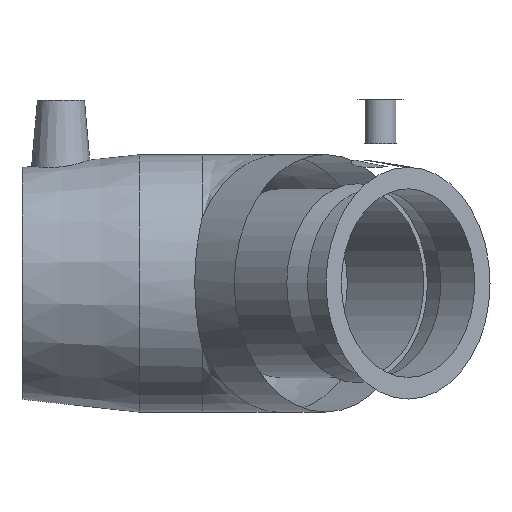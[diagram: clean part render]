
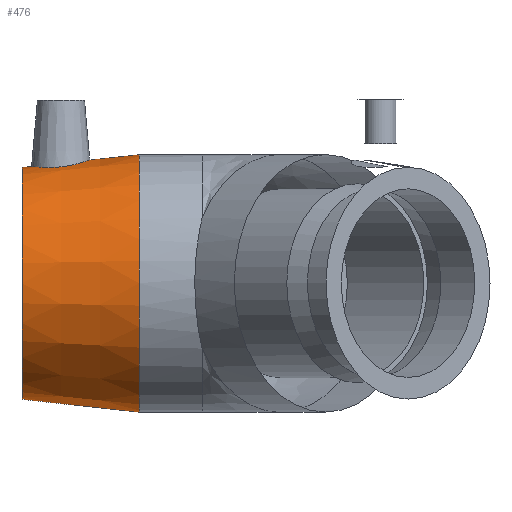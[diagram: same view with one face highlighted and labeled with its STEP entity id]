
A CAD part, top view. The second image highlights one B-rep face of the part: STEP entity #476.
In plain terms, the highlighted conical face has half-angle 6.28 degrees and reference radius 38.97 mm.
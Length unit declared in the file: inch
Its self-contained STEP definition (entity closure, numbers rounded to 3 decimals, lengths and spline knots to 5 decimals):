
#17=B_SPLINE_CURVE_WITH_KNOTS('',3,(#902,#903,#904,#905,#906,#907,#908,
#909,#910,#911),.UNSPECIFIED.,.F.,.F.,(4,2,2,2,4),(0.,0.34407,
0.68813,1.03429,1.38045),.UNSPECIFIED.);
#18=B_SPLINE_CURVE_WITH_KNOTS('',3,(#912,#913,#914,#915,#916,#917,#918,
#919,#920,#921,#922,#923,#924,#925,#926,#927,#928,#929,#930,#931,#932,#933,
#934,#935,#936,#937),.UNSPECIFIED.,.F.,.F.,(4,2,2,2,2,2,2,2,2,2,2,2,4),
(1.38045,1.7266,2.07276,2.41683,2.76089,
3.12626,3.49163,3.84978,4.20794,4.56609,
4.92425,5.28962,5.65499),.UNSPECIFIED.);
#24=CONICAL_SURFACE('',#569,1.53425,0.11);
#39=FACE_BOUND('',#153,.T.);
#55=LINE('',#968,#71);
#71=VECTOR('',#733,1.53425);
#111=FACE_OUTER_BOUND('',#152,.T.);
#152=EDGE_LOOP('',(#427,#428,#429,#430,#431,#432));
#153=EDGE_LOOP('',(#433,#434));
#187=CIRCLE('',#555,1.615);
#188=CIRCLE('',#556,1.615);
#195=CIRCLE('',#567,1.4535);
#196=CIRCLE('',#568,1.4535);
#231=VERTEX_POINT('',#900);
#232=VERTEX_POINT('',#901);
#233=VERTEX_POINT('',#940);
#234=VERTEX_POINT('',#942);
#241=VERTEX_POINT('',#963);
#242=VERTEX_POINT('',#964);
#290=EDGE_CURVE('',#231,#232,#17,.T.);
#291=EDGE_CURVE('',#232,#231,#18,.T.);
#294=EDGE_CURVE('',#233,#234,#187,.T.);
#295=EDGE_CURVE('',#234,#233,#188,.T.);
#304=EDGE_CURVE('',#241,#242,#195,.T.);
#305=EDGE_CURVE('',#242,#241,#196,.T.);
#306=EDGE_CURVE('',#233,#242,#55,.T.);
#427=ORIENTED_EDGE('',*,*,#295,.F.);
#428=ORIENTED_EDGE('',*,*,#294,.F.);
#429=ORIENTED_EDGE('',*,*,#306,.T.);
#430=ORIENTED_EDGE('',*,*,#305,.T.);
#431=ORIENTED_EDGE('',*,*,#304,.T.);
#432=ORIENTED_EDGE('',*,*,#306,.F.);
#433=ORIENTED_EDGE('',*,*,#290,.T.);
#434=ORIENTED_EDGE('',*,*,#291,.T.);
#476=ADVANCED_FACE('',(#111,#39),#24,.T.);
#555=AXIS2_PLACEMENT_3D('',#943,#701,#702);
#556=AXIS2_PLACEMENT_3D('',#944,#703,#704);
#567=AXIS2_PLACEMENT_3D('',#965,#727,#728);
#568=AXIS2_PLACEMENT_3D('',#966,#729,#730);
#569=AXIS2_PLACEMENT_3D('',#967,#731,#732);
#701=DIRECTION('center_axis',(1.,0.,0.));
#702=DIRECTION('ref_axis',(0.,0.,-1.));
#703=DIRECTION('center_axis',(1.,0.,0.));
#704=DIRECTION('ref_axis',(0.,0.,-1.));
#727=DIRECTION('center_axis',(1.,0.,0.));
#728=DIRECTION('ref_axis',(0.,0.,-1.));
#729=DIRECTION('center_axis',(1.,0.,0.));
#730=DIRECTION('ref_axis',(0.,0.,-1.));
#731=DIRECTION('center_axis',(1.,0.,0.));
#732=DIRECTION('ref_axis',(0.,1.,0.));
#733=DIRECTION('',(-0.994,0.109,0.));
#900=CARTESIAN_POINT('',(-2.36137,1.46,0.36852));
#901=CARTESIAN_POINT('',(-2.71618,1.46674,0.));
#902=CARTESIAN_POINT('Ctrl Pts',(-2.36137,1.46,0.36852));
#903=CARTESIAN_POINT('Ctrl Pts',(-2.40625,1.45521,0.36732));
#904=CARTESIAN_POINT('Ctrl Pts',(-2.45406,1.45245,0.3571));
#905=CARTESIAN_POINT('Ctrl Pts',(-2.54168,1.45158,0.3183));
#906=CARTESIAN_POINT('Ctrl Pts',(-2.58149,1.45332,0.28972));
#907=CARTESIAN_POINT('Ctrl Pts',(-2.64425,1.45782,0.22456));
#908=CARTESIAN_POINT('Ctrl Pts',(-2.6714,1.46087,0.1835));
#909=CARTESIAN_POINT('Ctrl Pts',(-2.70737,1.46539,0.09394));
#910=CARTESIAN_POINT('Ctrl Pts',(-2.71618,1.46674,0.04543));
#911=CARTESIAN_POINT('Ctrl Pts',(-2.71618,1.46674,0.));
#912=CARTESIAN_POINT('Ctrl Pts',(-2.71618,1.46674,0.));
#913=CARTESIAN_POINT('Ctrl Pts',(-2.71618,1.46674,-0.04543));
#914=CARTESIAN_POINT('Ctrl Pts',(-2.70737,1.46539,-0.09394));
#915=CARTESIAN_POINT('Ctrl Pts',(-2.6714,1.46087,-0.1835));
#916=CARTESIAN_POINT('Ctrl Pts',(-2.64425,1.45782,-0.22456));
#917=CARTESIAN_POINT('Ctrl Pts',(-2.58149,1.45332,-0.28972));
#918=CARTESIAN_POINT('Ctrl Pts',(-2.54168,1.45158,-0.3183));
#919=CARTESIAN_POINT('Ctrl Pts',(-2.45406,1.45245,-0.3571));
#920=CARTESIAN_POINT('Ctrl Pts',(-2.40625,1.45521,-0.36732));
#921=CARTESIAN_POINT('Ctrl Pts',(-2.31371,1.46508,-0.36981));
#922=CARTESIAN_POINT('Ctrl Pts',(-2.26318,1.4731,-0.36116));
#923=CARTESIAN_POINT('Ctrl Pts',(-2.17057,1.49217,-0.32393));
#924=CARTESIAN_POINT('Ctrl Pts',(-2.12846,1.50306,-0.29535));
#925=CARTESIAN_POINT('Ctrl Pts',(-2.06261,1.52182,-0.22957));
#926=CARTESIAN_POINT('Ctrl Pts',(-2.03418,1.53096,-0.18816));
#927=CARTESIAN_POINT('Ctrl Pts',(-1.99629,1.54361,-0.09689));
#928=CARTESIAN_POINT('Ctrl Pts',(-1.98685,1.54701,-0.047));
#929=CARTESIAN_POINT('Ctrl Pts',(-1.98685,1.54701,0.047));
#930=CARTESIAN_POINT('Ctrl Pts',(-1.99629,1.54361,0.09689));
#931=CARTESIAN_POINT('Ctrl Pts',(-2.03418,1.53096,0.18816));
#932=CARTESIAN_POINT('Ctrl Pts',(-2.06261,1.52182,0.22957));
#933=CARTESIAN_POINT('Ctrl Pts',(-2.12846,1.50306,0.29535));
#934=CARTESIAN_POINT('Ctrl Pts',(-2.17057,1.49217,0.32393));
#935=CARTESIAN_POINT('Ctrl Pts',(-2.26318,1.4731,0.36116));
#936=CARTESIAN_POINT('Ctrl Pts',(-2.31371,1.46508,0.36981));
#937=CARTESIAN_POINT('Ctrl Pts',(-2.36137,1.46,0.36852));
#940=CARTESIAN_POINT('',(-1.36901,-1.615,0.));
#942=CARTESIAN_POINT('',(-1.36901,1.615,0.));
#943=CARTESIAN_POINT('Origin',(-1.36901,0.,
0.));
#944=CARTESIAN_POINT('Origin',(-1.36901,0.,
0.));
#963=CARTESIAN_POINT('',(-2.83651,1.4535,0.));
#964=CARTESIAN_POINT('',(-2.83651,-1.4535,0.));
#965=CARTESIAN_POINT('Origin',(-2.83651,0.,0.));
#966=CARTESIAN_POINT('Origin',(-2.83651,0.,0.));
#967=CARTESIAN_POINT('Origin',(-2.10276,0.,
0.));
#968=CARTESIAN_POINT('',(-2.10276,-1.53425,0.));
